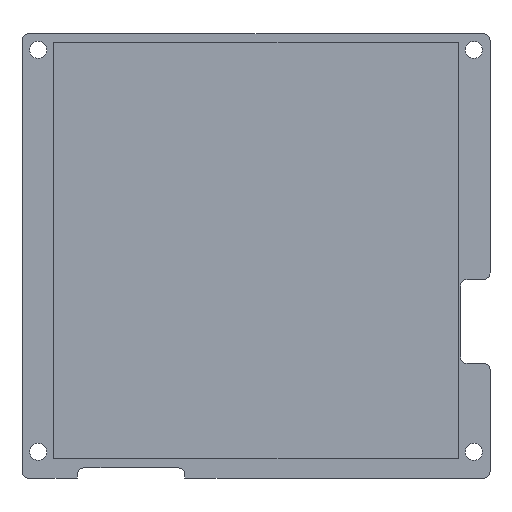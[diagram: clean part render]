
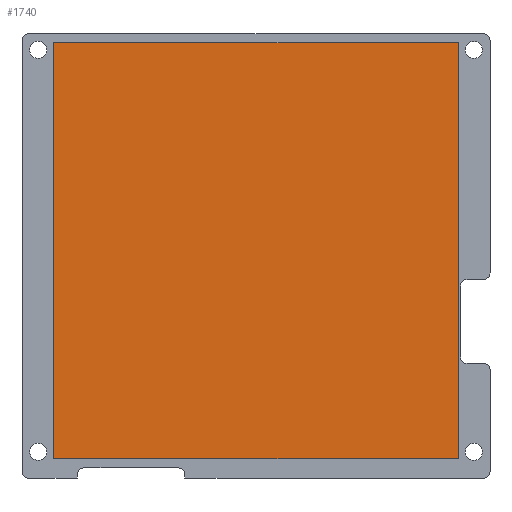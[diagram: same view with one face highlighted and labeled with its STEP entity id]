
A CAD part, top view. The second image highlights one B-rep face of the part: STEP entity #1740.
In plain terms, the highlighted planar face has unit normal (0, 0, 1).
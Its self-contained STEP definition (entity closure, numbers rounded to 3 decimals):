
#602=DIRECTION('',(0.,-1.,0.));
#603=VECTOR('',#602,80.45);
#604=CARTESIAN_POINT('',(-39.132,40.23,7.73));
#605=LINE('',#604,#603);
#606=DIRECTION('',(-1.,0.,0.));
#607=VECTOR('',#606,78.26);
#608=CARTESIAN_POINT('',(39.128,40.23,7.73));
#609=LINE('',#608,#607);
#610=DIRECTION('',(0.,1.,0.));
#611=VECTOR('',#610,80.45);
#612=CARTESIAN_POINT('',(39.128,-40.22,7.73));
#613=LINE('',#612,#611);
#614=DIRECTION('',(1.,0.,0.));
#615=VECTOR('',#614,78.26);
#616=CARTESIAN_POINT('',(-39.132,-40.22,7.73));
#617=LINE('',#616,#615);
#882=CARTESIAN_POINT('',(-39.132,40.23,7.73));
#883=CARTESIAN_POINT('',(-39.132,-40.22,7.73));
#884=VERTEX_POINT('',#882);
#885=VERTEX_POINT('',#883);
#886=CARTESIAN_POINT('',(39.128,-40.22,7.73));
#887=VERTEX_POINT('',#886);
#888=CARTESIAN_POINT('',(39.128,40.23,7.73));
#889=VERTEX_POINT('',#888);
#1728=CARTESIAN_POINT('',(0.,0.,7.73));
#1729=DIRECTION('',(0.,0.,1.));
#1730=DIRECTION('',(1.,0.,0.));
#1731=AXIS2_PLACEMENT_3D('',#1728,#1729,#1730);
#1732=PLANE('',#1731);
#1734=ORIENTED_EDGE('',*,*,#1733,.F.);
#1735=ORIENTED_EDGE('',*,*,#1705,.F.);
#1736=ORIENTED_EDGE('',*,*,#1722,.F.);
#1737=ORIENTED_EDGE('',*,*,#1673,.F.);
#1738=EDGE_LOOP('',(#1734,#1735,#1736,#1737));
#1739=FACE_OUTER_BOUND('',#1738,.F.);
#1673=EDGE_CURVE('',#885,#887,#617,.T.);
#1705=EDGE_CURVE('',#889,#884,#609,.T.);
#1722=EDGE_CURVE('',#887,#889,#613,.T.);
#1733=EDGE_CURVE('',#884,#885,#605,.T.);
#1740=ADVANCED_FACE('',(#1739),#1732,.T.);
